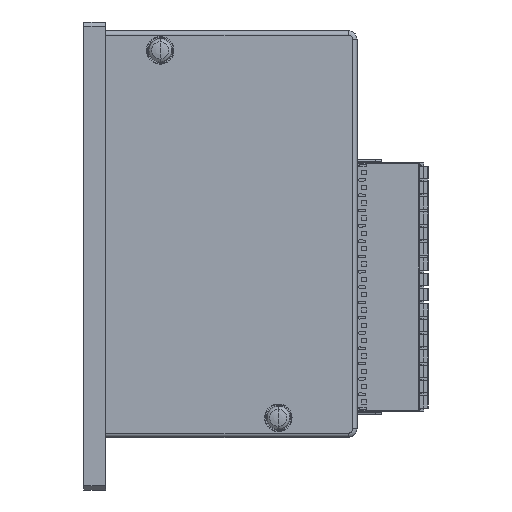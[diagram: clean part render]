
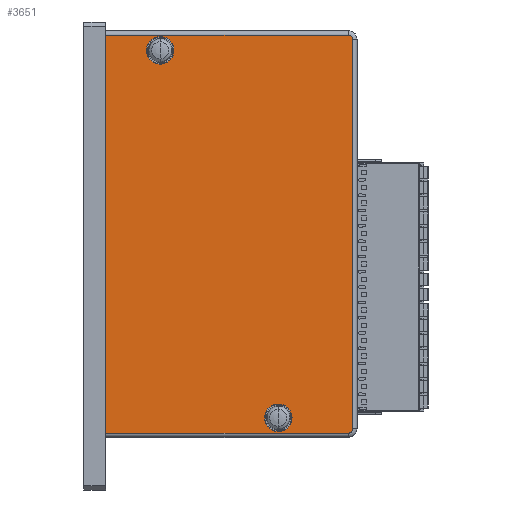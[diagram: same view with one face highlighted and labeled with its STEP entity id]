
A CAD part, left-side view. The second image highlights one B-rep face of the part: STEP entity #3651.
In plain terms, the highlighted planar face has unit normal (-1, 0, 0).
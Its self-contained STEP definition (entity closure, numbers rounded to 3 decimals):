
#3651=ADVANCED_FACE('',(#39619,#39620,#39621),#39618,.T.);
#39618=PLANE('',#77917);
#39619=FACE_OUTER_BOUND('',#77918,.T.);
#39620=FACE_BOUND('',#77919,.T.);
#39621=FACE_BOUND('',#77920,.T.);
#77914=CARTESIAN_POINT('',(0.,-73.25,-38.9));
#77915=DIRECTION('',(-1.,0.,0.));
#77916=DIRECTION('',(0.,0.,1.));
#77917=AXIS2_PLACEMENT_3D('',#77914,#77915,#77916);
#77918=EDGE_LOOP('',(#105716,#105717,#105718,#105719,#105720,#105721,#105722,#105723,#105724,#105725,#105726,#105727,#105728,#105729));
#77919=EDGE_LOOP('',(#105730,#105731));
#77920=EDGE_LOOP('',(#105732,#105733));
#105716=ORIENTED_EDGE('',*,*,#122810,.F.);
#105717=ORIENTED_EDGE('',*,*,#122730,.F.);
#105718=ORIENTED_EDGE('',*,*,#122732,.F.);
#105719=ORIENTED_EDGE('',*,*,#122685,.T.);
#105720=ORIENTED_EDGE('',*,*,#122833,.F.);
#105721=ORIENTED_EDGE('',*,*,#122834,.F.);
#105722=ORIENTED_EDGE('',*,*,#122839,.F.);
#105723=ORIENTED_EDGE('',*,*,#122846,.T.);
#105724=ORIENTED_EDGE('',*,*,#122847,.T.);
#105725=ORIENTED_EDGE('',*,*,#122848,.T.);
#105726=ORIENTED_EDGE('',*,*,#122849,.T.);
#105727=ORIENTED_EDGE('',*,*,#122850,.T.);
#105728=ORIENTED_EDGE('',*,*,#122802,.F.);
#105729=ORIENTED_EDGE('',*,*,#122807,.F.);
#105730=ORIENTED_EDGE('',*,*,#122851,.F.);
#105731=ORIENTED_EDGE('',*,*,#122852,.F.);
#105732=ORIENTED_EDGE('',*,*,#122853,.F.);
#105733=ORIENTED_EDGE('',*,*,#122854,.F.);
#122685=EDGE_CURVE('',#186461,#186462,#186463,.T.);
#122730=EDGE_CURVE('',#186758,#186765,#186766,.T.);
#122732=EDGE_CURVE('',#186461,#186758,#186778,.T.);
#122802=EDGE_CURVE('',#187248,#187249,#187250,.T.);
#122807=EDGE_CURVE('',#187282,#187248,#187283,.T.);
#122810=EDGE_CURVE('',#186765,#187282,#187302,.T.);
#122833=EDGE_CURVE('',#187447,#186462,#187454,.T.);
#122834=EDGE_CURVE('',#187460,#187447,#187461,.T.);
#122839=EDGE_CURVE('',#187488,#187460,#187495,.T.);
#122846=EDGE_CURVE('',#187488,#187538,#187539,.T.);
#122847=EDGE_CURVE('',#187538,#187545,#187546,.T.);
#122848=EDGE_CURVE('',#187545,#187552,#187553,.T.);
#122849=EDGE_CURVE('',#187552,#187559,#187560,.T.);
#122850=EDGE_CURVE('',#187559,#187249,#187566,.T.);
#122851=EDGE_CURVE('',#187572,#187573,#187574,.T.);
#122852=EDGE_CURVE('',#187573,#187572,#187580,.T.);
#122853=EDGE_CURVE('',#187586,#187587,#187588,.T.);
#122854=EDGE_CURVE('',#187587,#187586,#187594,.T.);
#186461=VERTEX_POINT('',#247490);
#186462=VERTEX_POINT('',#247491);
#186463=LINE('',#247492,#247493);
#186758=VERTEX_POINT('',#247668);
#186765=VERTEX_POINT('',#247672);
#186766=LINE('',#247673,#247674);
#186778=LINE('',#247679,#247680);
#187248=VERTEX_POINT('',#247947);
#187249=VERTEX_POINT('',#247948);
#187250=LINE('',#247949,#247950);
#187282=VERTEX_POINT('',#247968);
#187283=LINE('',#247969,#247970);
#187302=LINE('',#247979,#247980);
#187447=VERTEX_POINT('',#248062);
#187454=LINE('',#248066,#248067);
#187460=VERTEX_POINT('',#248069);
#187461=LINE('',#248070,#248071);
#187488=VERTEX_POINT('',#248085);
#187495=LINE('',#248090,#248091);
#187538=VERTEX_POINT('',#248113);
#187539=LINE('',#248114,#248115);
#187545=VERTEX_POINT('',#248117);
#187546=CIRCLE('',#248121,1.);
#187552=VERTEX_POINT('',#248122);
#187553=LINE('',#248123,#248124);
#187559=VERTEX_POINT('',#248126);
#187560=CIRCLE('',#248130,1.);
#187566=LINE('',#248131,#248132);
#187572=VERTEX_POINT('',#248134);
#187573=VERTEX_POINT('',#248135);
#187574=CIRCLE('',#248139,3.15);
#187580=CIRCLE('',#248143,3.15);
#187586=VERTEX_POINT('',#248144);
#187587=VERTEX_POINT('',#248145);
#187588=CIRCLE('',#248149,3.15);
#187594=CIRCLE('',#248153,3.15);
#247490=CARTESIAN_POINT('',(0.,-9.1,-10.1));
#247491=CARTESIAN_POINT('',(0.,-8.1,-10.1));
#247492=CARTESIAN_POINT('',(0.,-9.1,-10.1));
#247493=VECTOR('',#247494,1.);
#247494=DIRECTION('',(0.,1.,0.));
#247668=CARTESIAN_POINT('',(0.,-9.1,30.2));
#247672=CARTESIAN_POINT('',(0.,-8.1,30.2));
#247673=CARTESIAN_POINT('',(0.,-9.1,30.2));
#247674=VECTOR('',#247675,1.);
#247675=DIRECTION('',(0.,1.,0.));
#247679=CARTESIAN_POINT('',(0.,-9.1,-10.1));
#247680=VECTOR('',#247681,40.3);
#247681=DIRECTION('',(0.,0.,1.));
#247947=CARTESIAN_POINT('',(0.,-5.6,43.4));
#247948=CARTESIAN_POINT('',(0.,-5.6,61.2));
#247949=CARTESIAN_POINT('',(0.,-5.6,43.4));
#247950=VECTOR('',#247951,17.8);
#247951=DIRECTION('',(0.,0.,1.));
#247968=CARTESIAN_POINT('',(0.,-8.1,43.4));
#247969=CARTESIAN_POINT('',(0.,-8.1,43.4));
#247970=VECTOR('',#247971,2.5);
#247971=DIRECTION('',(0.,1.,0.));
#247979=CARTESIAN_POINT('',(0.,-8.1,30.2));
#247980=VECTOR('',#247981,13.2);
#247981=DIRECTION('',(0.,0.,1.));
#248062=CARTESIAN_POINT('',(0.,-8.1,-20.8));
#248066=CARTESIAN_POINT('',(0.,-8.1,-20.8));
#248067=VECTOR('',#248068,10.7);
#248068=DIRECTION('',(0.,0.,1.));
#248069=CARTESIAN_POINT('',(0.,-5.6,-20.8));
#248070=CARTESIAN_POINT('',(0.,-5.6,-20.8));
#248071=VECTOR('',#248072,2.5);
#248072=DIRECTION('',(0.,-1.,0.));
#248085=CARTESIAN_POINT('',(0.,-5.6,-29.8));
#248090=CARTESIAN_POINT('',(0.,-5.6,-29.8));
#248091=VECTOR('',#248092,9.);
#248092=DIRECTION('',(0.,0.,1.));
#248113=CARTESIAN_POINT('',(0.,-66.1,-29.8));
#248114=CARTESIAN_POINT('',(0.,-5.6,-29.8));
#248115=VECTOR('',#248116,60.5);
#248116=DIRECTION('',(0.,-1.,0.));
#248117=CARTESIAN_POINT('',(0.,-67.1,-28.8));
#248118=CARTESIAN_POINT('',(0.,-66.1,-28.8));
#248119=DIRECTION('',(-1.,0.,0.));
#248120=DIRECTION('',(0.,0.,-1.));
#248121=AXIS2_PLACEMENT_3D('',#248118,#248119,#248120);
#248122=CARTESIAN_POINT('',(0.,-67.1,60.2));
#248123=CARTESIAN_POINT('',(0.,-67.1,-28.8));
#248124=VECTOR('',#248125,89.);
#248125=DIRECTION('',(0.,0.,1.));
#248126=CARTESIAN_POINT('',(0.,-66.1,61.2));
#248127=CARTESIAN_POINT('',(0.,-66.1,60.2));
#248128=DIRECTION('',(-1.,0.,0.));
#248129=DIRECTION('',(0.,0.,-1.));
#248130=AXIS2_PLACEMENT_3D('',#248127,#248128,#248129);
#248131=CARTESIAN_POINT('',(0.,-66.1,61.2));
#248132=VECTOR('',#248133,60.5);
#248133=DIRECTION('',(0.,1.,0.));
#248134=CARTESIAN_POINT('',(0.,-50.1,-23.15));
#248135=CARTESIAN_POINT('',(0.,-50.1,-29.45));
#248136=CARTESIAN_POINT('',(0.,-50.1,-26.3));
#248137=DIRECTION('',(-1.,0.,0.));
#248138=DIRECTION('',(0.,0.,-1.));
#248139=AXIS2_PLACEMENT_3D('',#248136,#248137,#248138);
#248140=CARTESIAN_POINT('',(0.,-50.1,-26.3));
#248141=DIRECTION('',(-1.,0.,0.));
#248142=DIRECTION('',(0.,0.,-1.));
#248143=AXIS2_PLACEMENT_3D('',#248140,#248141,#248142);
#248144=CARTESIAN_POINT('',(0.,-23.1,60.85));
#248145=CARTESIAN_POINT('',(0.,-23.1,54.55));
#248146=CARTESIAN_POINT('',(0.,-23.1,57.7));
#248147=DIRECTION('',(-1.,0.,0.));
#248148=DIRECTION('',(0.,0.,-1.));
#248149=AXIS2_PLACEMENT_3D('',#248146,#248147,#248148);
#248150=CARTESIAN_POINT('',(0.,-23.1,57.7));
#248151=DIRECTION('',(-1.,0.,0.));
#248152=DIRECTION('',(0.,0.,-1.));
#248153=AXIS2_PLACEMENT_3D('',#248150,#248151,#248152);
